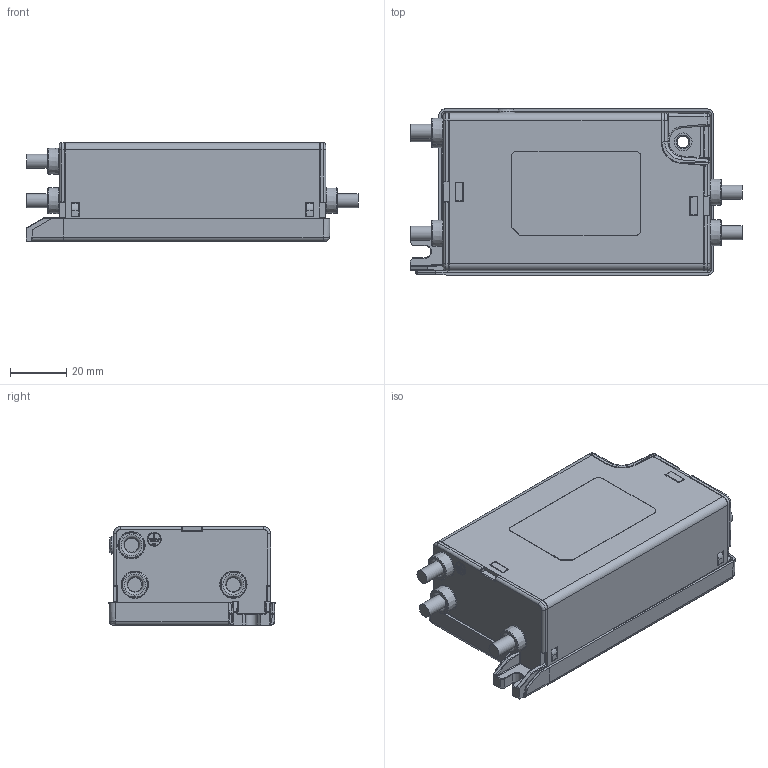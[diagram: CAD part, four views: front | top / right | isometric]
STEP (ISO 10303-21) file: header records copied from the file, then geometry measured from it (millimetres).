
FILE_DESCRIPTION(/* description */ (''),/* implementation_level */ '2;1');
FILE_NAME(/* name */ 'C:\Users\Christian.Ackermann\OneDrive - Schaffner EMV AG\Desktop\UMA_customerSTEP\FN250x-xx-07.stp',/* time_stamp */ '2021-08-24T09:38:14+02:00',/* author */ ('Christian.Ackermann'),/* organization */ (''),/* preprocessor_version */ 'ST-DEVELOPER v18.1',/* originating_system */ 'Autodesk Inventor 2020',/* authorisation */ '');
FILE_SCHEMA (('AUTOMOTIVE_DESIGN { 1 0 10303 214 3 1 1 }'));
Length unit declared in the file: millimetre
Products named in the file (1): FN250x-xx-07
Bounding box: 117.95 x 59 x 35.06 mm (x, y, z)
Volume: 182098.7 mm3; surface area: 36660 mm2
Topology: 1 solids, 1 shells, 1371 faces, 3439 edges, 2083 vertices
Faces by surface type: cylinder 524, plane 520, bspline 172, sphere 75, torus 48, cone 32
Full cylindrical faces by diameter (mm): 2 x1, 4.2 x1, 5 x5, 6.111 x1, 6.4 x2, 6.5 x1, 8.39 x2, 8.74 x3
Entity records: 46492 total; most frequent: CARTESIAN_POINT 11991, DIRECTION 7085, ORIENTED_EDGE 6866, EDGE_CURVE 3433, AXIS2_PLACEMENT_3D 2577, VERTEX_POINT 2083, LINE 1931, VECTOR 1931
